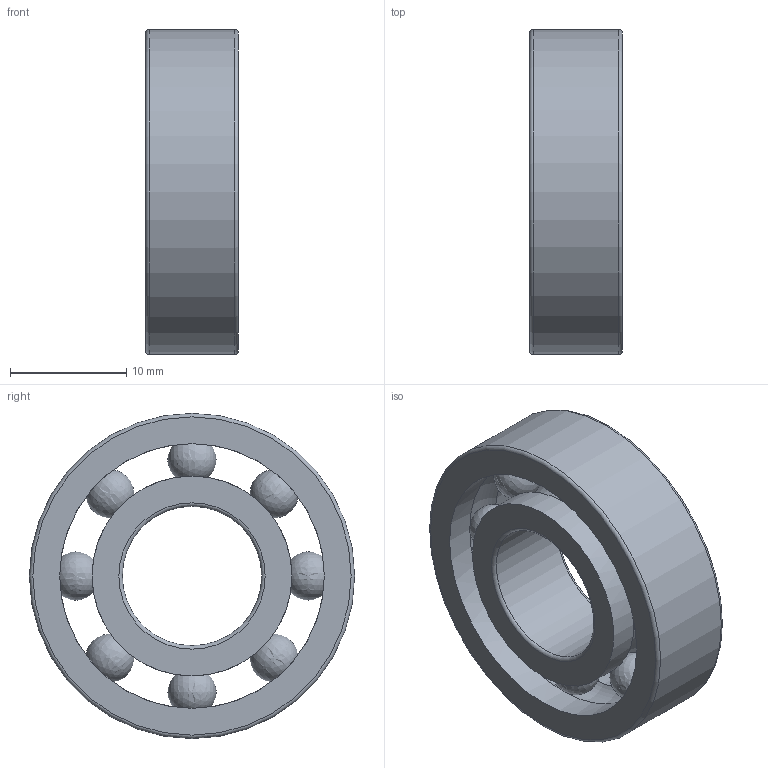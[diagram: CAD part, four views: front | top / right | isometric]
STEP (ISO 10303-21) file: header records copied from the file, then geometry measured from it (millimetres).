
FILE_DESCRIPTION(/* description */ ('깊은 그루브 볼 베어링'),/* implementation_level */ '2;1');
FILE_NAME(/* name */ '',/* time_stamp */ '2026-07-31T13:49:34+09:00',/* author */ ('jhkim'),/* organization */ (''),/* preprocessor_version */ 'ST-DEVELOPER v20.1',/* originating_system */ 'Autodesk Inventor 2027',/* authorisation */ '');
FILE_SCHEMA (('AUTOMOTIVE_DESIGN { 1 0 10303 214 3 1 1 }'));
Length unit declared in the file: millimetre
Products named in the file (1): 깊은 홈 볼 베어링 
6001
Bounding box: 8 x 28 x 28 mm (x, y, z)
Volume: 2733.5 mm3; surface area: 3118.1 mm2
Topology: 10 solids, 10 shells, 38 faces, 98 edges, 64 vertices
Faces by surface type: torus 20, sphere 8, cylinder 6, plane 4
Full cylindrical faces by diameter (mm): 12 x1, 17.216 x2, 22.784 x2, 28 x1
Entity records: 1392 total; most frequent: DIRECTION 268, CARTESIAN_POINT 233, ORIENTED_EDGE 196, AXIS2_PLACEMENT_3D 131, EDGE_CURVE 98, VERTEX_POINT 96, CIRCLE 92, EDGE_LOOP 58
